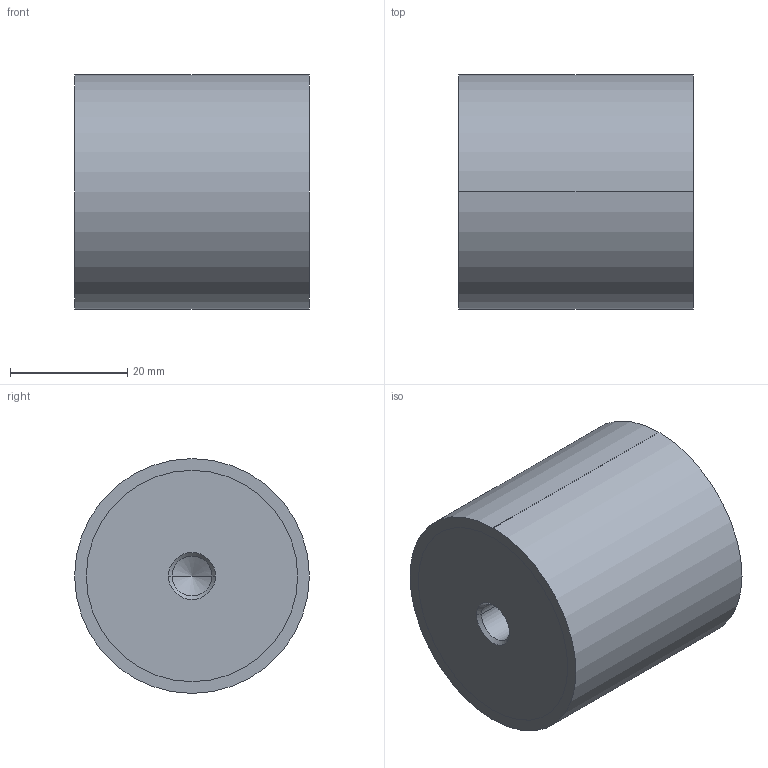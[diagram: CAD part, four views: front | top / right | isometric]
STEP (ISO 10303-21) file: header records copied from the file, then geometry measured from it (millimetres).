
FILE_DESCRIPTION (( 'STEP AP214' ), '1' );
FILE_NAME ('351-40-40-M8-EE-55.step', '2025-07-23T09:48:08', ( '' ), ( '' ), 'SwSTEP 2.0', 'SolidWorks 2022', '' );
FILE_SCHEMA (( 'AUTOMOTIVE_DESIGN' ));
Length unit declared in the file: millimetre
Products named in the file (1): 351-40-40-M8-EE-55
Bounding box: 40 x 40 x 40 mm (x, y, z)
Volume: 49538.7 mm3; surface area: 7922.7 mm2
Topology: 1 solids, 1 shells, 28 faces, 58 edges, 34 vertices
Faces by surface type: cylinder 14, cone 8, plane 6
Entity records: 844 total; most frequent: DIRECTION 144, CARTESIAN_POINT 117, ORIENTED_EDGE 108, AXIS2_PLACEMENT_3D 61, EDGE_CURVE 54, EDGE_LOOP 34, VERTEX_POINT 34, CIRCLE 32
